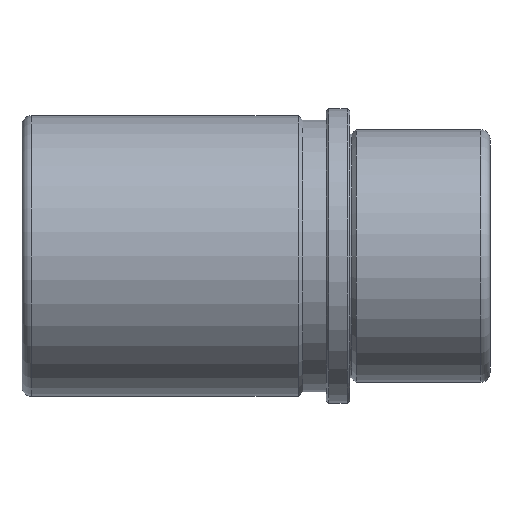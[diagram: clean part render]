
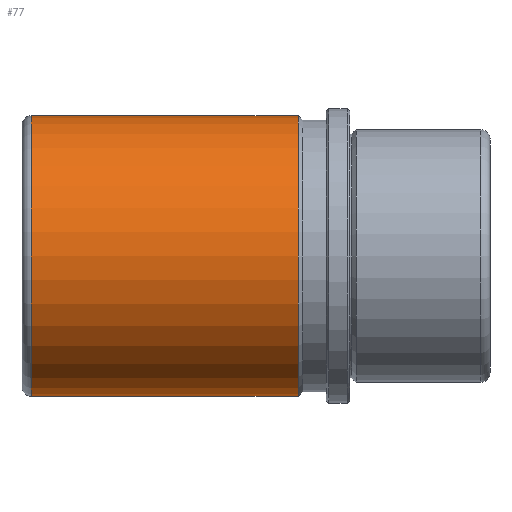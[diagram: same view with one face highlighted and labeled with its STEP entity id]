
A CAD part, front view. The second image highlights one B-rep face of the part: STEP entity #77.
In plain terms, the highlighted cylindrical face has radius 30 mm (diameter 60 mm), a full revolution.
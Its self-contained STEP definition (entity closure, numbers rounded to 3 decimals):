
#77 = ADVANCED_FACE( '', ( #169, #170, #171 ), #172, .T. );
#169 = FACE_OUTER_BOUND( '', #262, .T. );
#170 = FACE_BOUND( '', #263, .T. );
#171 = FACE_OUTER_BOUND( '', #264, .T. );
#172 = CYLINDRICAL_SURFACE( '', #265, 30. );
#262 = EDGE_LOOP( '', ( #381 ) );
#263 = EDGE_LOOP( '', ( #382 ) );
#264 = EDGE_LOOP( '', ( #383 ) );
#265 = AXIS2_PLACEMENT_3D( '', #384, #385, #386 );
#381 = ORIENTED_EDGE( '', *, *, #440, .T. );
#382 = ORIENTED_EDGE( '', *, *, #413, .T. );
#383 = ORIENTED_EDGE( '', *, *, #448, .F. );
#384 = CARTESIAN_POINT( '', ( 30., 0., 0. ) );
#385 = DIRECTION( '', ( -1., 0., 0. ) );
#386 = DIRECTION( '', ( 0., 0., -1. ) );
#413 = EDGE_CURVE( '', #457, #457, #458, .T. );
#440 = EDGE_CURVE( '', #501, #501, #502, .T. );
#448 = EDGE_CURVE( '', #511, #511, #512, .T. );
#457 = VERTEX_POINT( '', #587 );
#458 = B_SPLINE_CURVE_WITH_KNOTS( '', 3, ( #588, #589, #590, #591, #592, #593, #594, #595, #596, #597, #598, #599, #600, #601, #602, #603, #604, #605, #606, #607, #608, #609, #610, #611, #612, #613, #614, #615, #616, #617, #618, #619, #620, #621, #622, #623, #624, #625, #626, #627, #628, #629, #630, #631, #632, #633, #634, #635, #636, #637, #638, #639, #640, #641, #642, #643, #644, #645, #646, #647, #648, #649, #650, #651, #652, #653 ), .UNSPECIFIED., .T., .F., ( 2, 2, 2, 2, 2, 2, 2, 2, 2, 2, 2, 2, 2, 2, 2, 2, 2, 2, 2, 2, 2, 2, 2, 2, 2, 2, 2, 2, 2, 2, 2, 2, 2, 2, 2 ), ( -0.001, 0., 0.001, 0.002, 0.002, 0.003, 0.004, 0.005, 0.006, 0.007, 0.007, 0.008, 0.009, 0.01, 0.011, 0.011, 0.012, 0.013, 0.014, 0.015, 0.016, 0.016, 0.017, 0.018, 0.019, 0.02, 0.02, 0.021, 0.022, 0.023, 0.024, 0.025, 0.025, 0.026, 0.027 ), .UNSPECIFIED. );
#501 = VERTEX_POINT( '', #696 );
#502 = CIRCLE( '', #697, 30. );
#511 = VERTEX_POINT( '', #706 );
#512 = CIRCLE( '', #707, 30. );
#587 = CARTESIAN_POINT( '', ( -18., 29.706, -4.188 ) );
#588 = CARTESIAN_POINT( '', ( -18.277, 29.706, -4.188 ) );
#589 = CARTESIAN_POINT( '', ( -17.723, 29.706, -4.188 ) );
#590 = CARTESIAN_POINT( '', ( -17.451, 29.71, -4.161 ) );
#591 = CARTESIAN_POINT( '', ( -16.915, 29.725, -4.054 ) );
#592 = CARTESIAN_POINT( '', ( -16.649, 29.736, -3.974 ) );
#593 = CARTESIAN_POINT( '', ( -16.142, 29.763, -3.763 ) );
#594 = CARTESIAN_POINT( '', ( -15.901, 29.779, -3.635 ) );
#595 = CARTESIAN_POINT( '', ( -15.446, 29.815, -3.331 ) );
#596 = CARTESIAN_POINT( '', ( -15.231, 29.834, -3.154 ) );
#597 = CARTESIAN_POINT( '', ( -14.845, 29.873, -2.768 ) );
#598 = CARTESIAN_POINT( '', ( -14.672, 29.892, -2.557 ) );
#599 = CARTESIAN_POINT( '', ( -14.366, 29.927, -2.1 ) );
#600 = CARTESIAN_POINT( '', ( -14.236, 29.944, -1.857 ) );
#601 = CARTESIAN_POINT( '', ( -14.027, 29.971, -1.353 ) );
#602 = CARTESIAN_POINT( '', ( -13.947, 29.981, -1.089 ) );
#603 = CARTESIAN_POINT( '', ( -13.839, 29.996, -0.548 ) );
#604 = CARTESIAN_POINT( '', ( -13.812, 30., -0.276 ) );
#605 = CARTESIAN_POINT( '', ( -13.812, 30., 0.271 ) );
#606 = CARTESIAN_POINT( '', ( -13.839, 29.996, 0.549 ) );
#607 = CARTESIAN_POINT( '', ( -13.946, 29.982, 1.086 ) );
#608 = CARTESIAN_POINT( '', ( -14.025, 29.971, 1.348 ) );
#609 = CARTESIAN_POINT( '', ( -14.235, 29.944, 1.855 ) );
#610 = CARTESIAN_POINT( '', ( -14.366, 29.927, 2.1 ) );
#611 = CARTESIAN_POINT( '', ( -14.669, 29.892, 2.553 ) );
#612 = CARTESIAN_POINT( '', ( -14.842, 29.873, 2.765 ) );
#613 = CARTESIAN_POINT( '', ( -15.233, 29.834, 3.156 ) );
#614 = CARTESIAN_POINT( '', ( -15.444, 29.815, 3.329 ) );
#615 = CARTESIAN_POINT( '', ( -15.897, 29.78, 3.632 ) );
#616 = CARTESIAN_POINT( '', ( -16.142, 29.763, 3.763 ) );
#617 = CARTESIAN_POINT( '', ( -16.649, 29.736, 3.974 ) );
#618 = CARTESIAN_POINT( '', ( -16.91, 29.725, 4.053 ) );
#619 = CARTESIAN_POINT( '', ( -17.447, 29.71, 4.16 ) );
#620 = CARTESIAN_POINT( '', ( -17.725, 29.706, 4.188 ) );
#621 = CARTESIAN_POINT( '', ( -18.272, 29.706, 4.188 ) );
#622 = CARTESIAN_POINT( '', ( -18.544, 29.71, 4.162 ) );
#623 = CARTESIAN_POINT( '', ( -19.085, 29.725, 4.054 ) );
#624 = CARTESIAN_POINT( '', ( -19.349, 29.736, 3.974 ) );
#625 = CARTESIAN_POINT( '', ( -19.853, 29.763, 3.766 ) );
#626 = CARTESIAN_POINT( '', ( -20.097, 29.779, 3.635 ) );
#627 = CARTESIAN_POINT( '', ( -20.555, 29.815, 3.33 ) );
#628 = CARTESIAN_POINT( '', ( -20.765, 29.834, 3.157 ) );
#629 = CARTESIAN_POINT( '', ( -21.152, 29.872, 2.771 ) );
#630 = CARTESIAN_POINT( '', ( -21.329, 29.892, 2.556 ) );
#631 = CARTESIAN_POINT( '', ( -21.633, 29.927, 2.102 ) );
#632 = CARTESIAN_POINT( '', ( -21.762, 29.943, 1.862 ) );
#633 = CARTESIAN_POINT( '', ( -21.972, 29.97, 1.354 ) );
#634 = CARTESIAN_POINT( '', ( -22.053, 29.981, 1.089 ) );
#635 = CARTESIAN_POINT( '', ( -22.16, 29.996, 0.553 ) );
#636 = CARTESIAN_POINT( '', ( -22.188, 30., 0.281 ) );
#637 = CARTESIAN_POINT( '', ( -22.188, 30., -0.273 ) );
#638 = CARTESIAN_POINT( '', ( -22.161, 29.996, -0.546 ) );
#639 = CARTESIAN_POINT( '', ( -22.055, 29.982, -1.081 ) );
#640 = CARTESIAN_POINT( '', ( -21.975, 29.971, -1.348 ) );
#641 = CARTESIAN_POINT( '', ( -21.765, 29.944, -1.855 ) );
#642 = CARTESIAN_POINT( '', ( -21.636, 29.928, -2.095 ) );
#643 = CARTESIAN_POINT( '', ( -21.333, 29.892, -2.551 ) );
#644 = CARTESIAN_POINT( '', ( -21.156, 29.873, -2.766 ) );
#645 = CARTESIAN_POINT( '', ( -20.771, 29.835, -3.152 ) );
#646 = CARTESIAN_POINT( '', ( -20.56, 29.816, -3.326 ) );
#647 = CARTESIAN_POINT( '', ( -20.103, 29.78, -3.632 ) );
#648 = CARTESIAN_POINT( '', ( -19.86, 29.763, -3.762 ) );
#649 = CARTESIAN_POINT( '', ( -19.356, 29.736, -3.972 ) );
#650 = CARTESIAN_POINT( '', ( -19.092, 29.725, -4.053 ) );
#651 = CARTESIAN_POINT( '', ( -18.551, 29.71, -4.161 ) );
#652 = CARTESIAN_POINT( '', ( -18.277, 29.706, -4.188 ) );
#653 = CARTESIAN_POINT( '', ( -17.723, 29.706, -4.188 ) );
#696 = CARTESIAN_POINT( '', ( -68., 0., -30. ) );
#697 = AXIS2_PLACEMENT_3D( '', #762, #763, #764 );
#706 = CARTESIAN_POINT( '', ( -11., 0., -30. ) );
#707 = AXIS2_PLACEMENT_3D( '', #768, #769, #770 );
#762 = CARTESIAN_POINT( '', ( -68., 0., 0. ) );
#763 = DIRECTION( '', ( 1., 0., 0. ) );
#764 = DIRECTION( '', ( 0., 0., -1. ) );
#768 = CARTESIAN_POINT( '', ( -11., 0., 0. ) );
#769 = DIRECTION( '', ( 1., 0., 0. ) );
#770 = DIRECTION( '', ( 0., 0., -1. ) );
